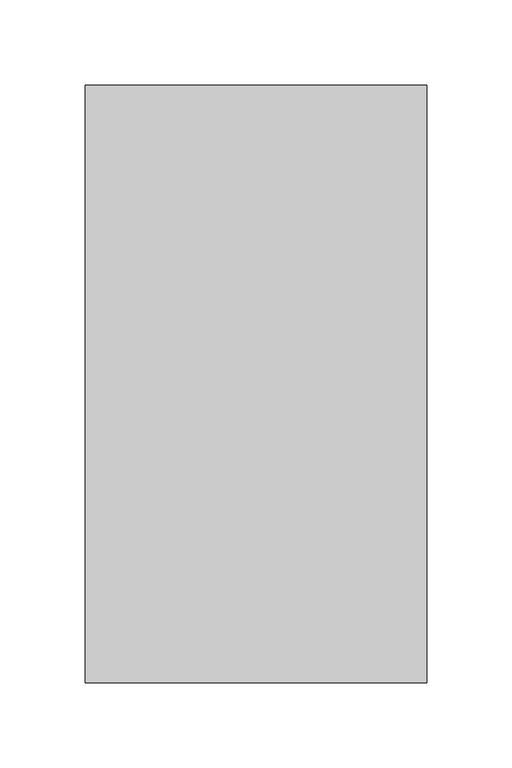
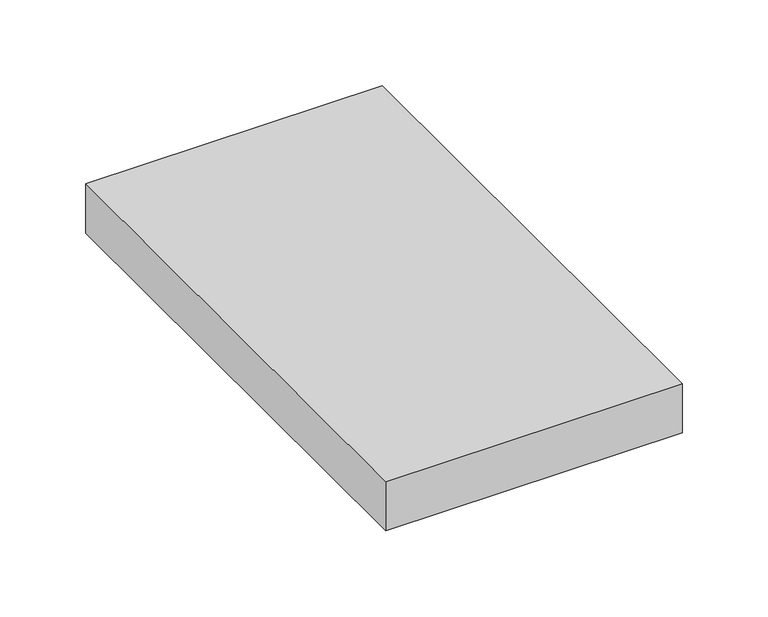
"""IFC4 building model written with IfcOpenShell, lengths in millimetres: furniture geometry, Pixel_Multiple : Pixel_Multiple."""

from ifc_helpers import new_model, si_unit, origin, origin_with_axes, place, context, project, spatial, polyline, outline, extrude, source, transform, mapped, element, save


def furniture_b0e0c35f(model_context):
    return source(origin(), model_context, "Body", "SweptSolid", [
        extrude(outline(polyline([(200.0, 0.0), (0.0, 0.0), (0.0, 350.0), (200.0, 350.0), (200.0, 0.0)])), origin_with_axes(), (0.0, 0.0, 1.0), 35.0),
    ])


if __name__ == "__main__":
    model = new_model("IFC4")
    model_context = context("Model", 3, world=origin())
    ifc_project = project(units=[si_unit("LENGTHUNIT", "METRE", prefix="MILLI")], contexts=[model_context])
    site = spatial("IfcSite", under=ifc_project)
    building = spatial("IfcBuilding", under=site)
    placement = place(None, origin())
    furniture_shape = furniture_b0e0c35f(model_context)
    element("IfcFurniture", 1, ObjectType="Pixel_Multiple : Pixel_Multiple", at=placement, inside=building, context=model_context, shape_type="MappedRepresentation", body=[
        mapped(furniture_shape, transform((0.0, 0.0, 0.0), x_axis=(1.0, 0.0, 0.0), y_axis=(0.0, 1.0, 0.0), z_axis=(0.0, 0.0, 1.0))),
    ])
    save(model, "model.ifc")
